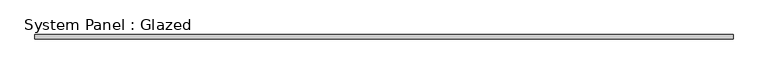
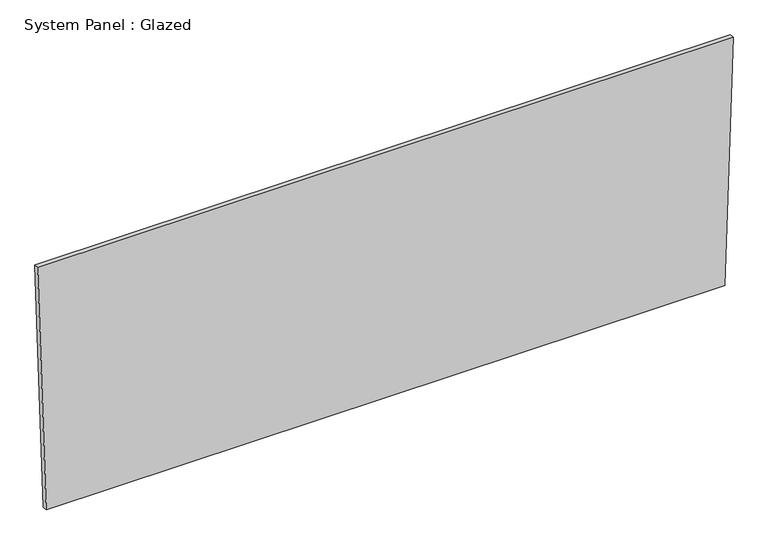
"""IFC4 building model written with IfcOpenShell, lengths in millimetres: plate geometry, System Panel : Glazed."""

from ifc_helpers import new_model, si_unit, frame, origin, place, context, project, spatial, polyline, outline, extrude, source, transform, mapped, element, save


def system_panel_glazed_44e6ebe2(model_context):
    return source(origin(), model_context, "Body", "SweptSolid", [
        extrude(outline(polyline([(0.0, -1909.6694991), (0.0, 1909.6694991), (1459.6689838, 1957.8930647), (1459.6689838, -1957.8930647), (0.0, -1909.6694991)])), frame((0.0, 19.05, 0.0), z_axis=(0.0, 1.0, 0.0), x_axis=(0.0, 0.0, 1.0)), (0.0, 0.0, 1.0), 25.4),
    ])


if __name__ == "__main__":
    model = new_model("IFC4")
    model_context = context("Model", 3, world=origin())
    ifc_project = project(units=[si_unit("LENGTHUNIT", "METRE", prefix="MILLI")], contexts=[model_context])
    site = spatial("IfcSite", under=ifc_project)
    building = spatial("IfcBuilding", under=site)
    placement = place(None, origin())
    system_panel_glazed_shape = system_panel_glazed_44e6ebe2(model_context)
    element("IfcPlate", 1, ObjectType="System Panel : Glazed", at=placement, inside=building, context=model_context, shape_type="MappedRepresentation", body=[
        mapped(system_panel_glazed_shape, transform((0.0, 0.0, 0.0), x_axis=(1.0, 0.0, 0.0), y_axis=(0.0, 1.0, 0.0), z_axis=(0.0, 0.0, 1.0))),
    ])
    save(model, "model.ifc")
